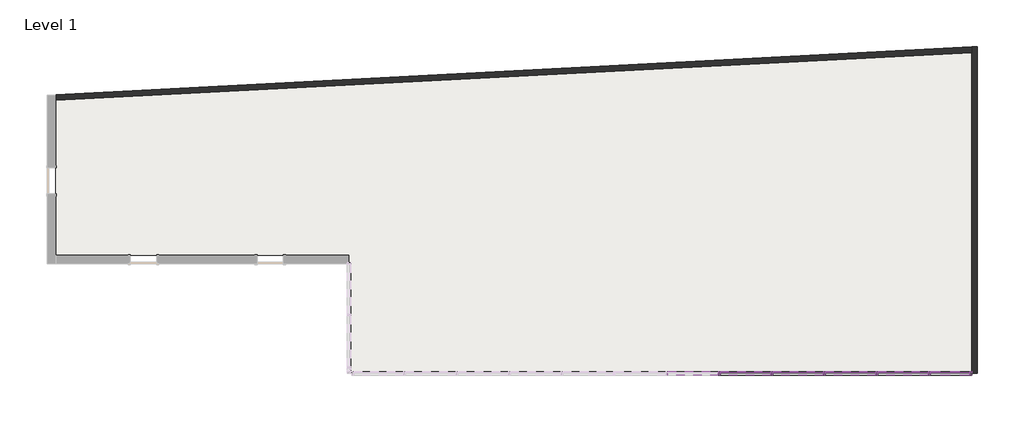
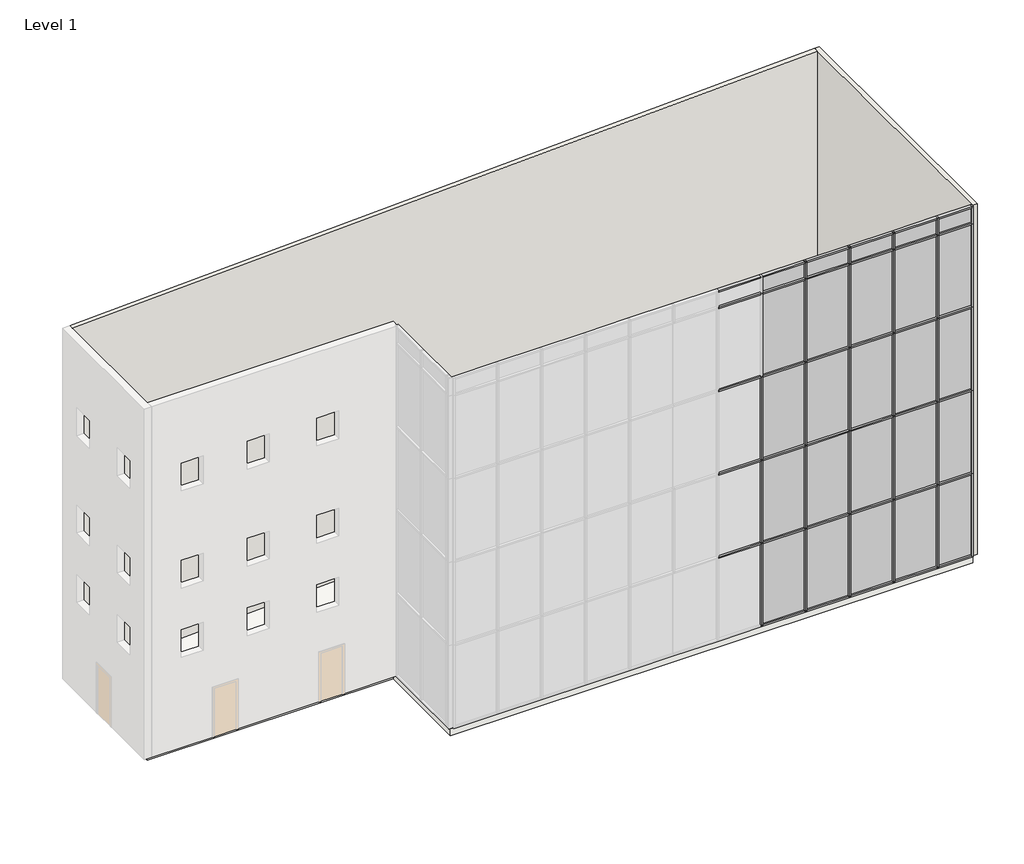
# One storey, part 3 of 3: 63 members, 25 plates, 2 walls, 1 slab.
"""IFC4 building model written with IfcOpenShell, lengths in millimetres."""

from ifc_helpers import new_model, si_unit, frame, origin, origin_with_axes, place, context, project, spatial, polyline, outline, extrude, faceted_brep, transform, mapped, element, save
from components import member_810865a4, member_61742b2b, member_79cc3911, member_6d5c3e5e, member_4dc7c44e, member_9764dd38, member_4d31274b, member_aa870034, system_panel_glazed_7e716341, system_panel_glazed_c99a592d, system_panel_glazed_7e07fde3, system_panel_glazed_e4cb9f9a, system_panel_glazed_a6232784, system_panel_glazed_e82ad010

model = new_model("IFC4")

# Units and contexts
model_context = context("Model", 3, world=origin())
ifc_project = project(units=[si_unit("LENGTHUNIT", "METRE", prefix="MILLI")], contexts=[model_context])

# Site, building, storey
site = spatial("IfcSite", under=ifc_project)
building = spatial("IfcBuilding", under=site)
storey = spatial("IfcBuildingStorey", under=building, Name="Level 1", Elevation=0.0)

# Members
placement = place(None, origin())
member_shape = member_810865a4(model_context)
element("IfcMember", 1, ObjectType="Rectangular Mullion : 2.5\" x 5\" rectangular", at=placement, inside=storey, context=model_context, shape_type="MappedRepresentation", body=[
    mapped(member_shape, transform((13534.6188959, 4686.3138106, 0.0), x_axis=(1.0, 0.0, 0.0), y_axis=(0.0, -1.0, 0.0), z_axis=(0.0, 0.0, -1.0))),
])
element("IfcMember", 2, ObjectType="Rectangular Mullion : 2.5\" x 5\" rectangular", at=placement, inside=storey, context=model_context, shape_type="MappedRepresentation", body=[
    mapped(member_shape, transform((11705.8188959, 4686.3138106, 0.0), x_axis=(1.0, 0.0, 0.0), y_axis=(0.0, -1.0, 0.0), z_axis=(0.0, 0.0, -1.0))),
])
element("IfcMember", 3, ObjectType="Rectangular Mullion : 2.5\" x 5\" rectangular", at=placement, inside=storey, context=model_context, shape_type="MappedRepresentation", body=[
    mapped(member_shape, transform((17192.2188959, 4686.3138106, 0.0), x_axis=(1.0, 0.0, 0.0), y_axis=(0.0, -1.0, 0.0), z_axis=(0.0, 0.0, -1.0))),
])
element("IfcMember", 4, ObjectType="Rectangular Mullion : 2.5\" x 5\" rectangular", at=placement, inside=storey, context=model_context, shape_type="MappedRepresentation", body=[
    mapped(member_shape, transform((15363.4188959, 4686.3138106, 0.0), x_axis=(1.0, 0.0, 0.0), y_axis=(0.0, -1.0, 0.0), z_axis=(0.0, 0.0, -1.0))),
])
element("IfcMember", 5, ObjectType="Rectangular Mullion : 2.5\" x 5\" rectangular", at=placement, inside=storey, context=model_context, shape_type="MappedRepresentation", body=[
    mapped(member_shape, transform((19021.0188959, 4686.3138106, 0.0), x_axis=(1.0, 0.0, 0.0), y_axis=(0.0, -1.0, 0.0), z_axis=(0.0, 0.0, -1.0))),
])
member_2_shape = member_61742b2b(model_context)
element("IfcMember", 6, ObjectType="Rectangular Mullion : 2.5\" x 5\" rectangular", at=placement, inside=storey, context=model_context, shape_type="MappedRepresentation", body=[
    mapped(member_2_shape, transform((15363.4188959, 4686.3138106, 14630.4), x_axis=(1.0, 0.0, 0.0), y_axis=(0.0, -1.0, 0.0), z_axis=(0.0, 0.0, -1.0))),
])
element("IfcMember", 7, ObjectType="Rectangular Mullion : 2.5\" x 5\" rectangular", at=placement, inside=storey, context=model_context, shape_type="MappedRepresentation", body=[
    mapped(member_2_shape, transform((13534.6188959, 4686.3138106, 14630.4), x_axis=(1.0, 0.0, 0.0), y_axis=(0.0, -1.0, 0.0), z_axis=(0.0, 0.0, -1.0))),
])
element("IfcMember", 8, ObjectType="Rectangular Mullion : 2.5\" x 5\" rectangular", at=placement, inside=storey, context=model_context, shape_type="MappedRepresentation", body=[
    mapped(member_2_shape, transform((19021.0188959, 4686.3138106, 14630.4), x_axis=(1.0, 0.0, 0.0), y_axis=(0.0, -1.0, 0.0), z_axis=(0.0, 0.0, -1.0))),
])
element("IfcMember", 9, ObjectType="Rectangular Mullion : 2.5\" x 5\" rectangular", at=placement, inside=storey, context=model_context, shape_type="MappedRepresentation", body=[
    mapped(member_2_shape, transform((17192.2188959, 4686.3138106, 14630.4), x_axis=(1.0, 0.0, 0.0), y_axis=(0.0, -1.0, 0.0), z_axis=(0.0, 0.0, -1.0))),
])
element("IfcMember", 10, ObjectType="Rectangular Mullion : 2.5\" x 5\" rectangular", at=placement, inside=storey, context=model_context, shape_type="MappedRepresentation", body=[
    mapped(member_shape, transform((17192.2188959, 4686.3138106, 3657.6), x_axis=(1.0, 0.0, 0.0), y_axis=(0.0, -1.0, 0.0), z_axis=(0.0, 0.0, -1.0))),
])
element("IfcMember", 11, ObjectType="Rectangular Mullion : 2.5\" x 5\" rectangular", at=placement, inside=storey, context=model_context, shape_type="MappedRepresentation", body=[
    mapped(member_shape, transform((15363.4188959, 4686.3138106, 10972.8), x_axis=(1.0, 0.0, 0.0), y_axis=(0.0, -1.0, 0.0), z_axis=(0.0, 0.0, -1.0))),
])
element("IfcMember", 12, ObjectType="Rectangular Mullion : 2.5\" x 5\" rectangular", at=placement, inside=storey, context=model_context, shape_type="MappedRepresentation", body=[
    mapped(member_shape, transform((15363.4188959, 4686.3138106, 7315.2), x_axis=(1.0, 0.0, 0.0), y_axis=(0.0, -1.0, 0.0), z_axis=(0.0, 0.0, -1.0))),
])
element("IfcMember", 13, ObjectType="Rectangular Mullion : 2.5\" x 5\" rectangular", at=placement, inside=storey, context=model_context, shape_type="MappedRepresentation", body=[
    mapped(member_shape, transform((15363.4188959, 4686.3138106, 3657.6), x_axis=(1.0, 0.0, 0.0), y_axis=(0.0, -1.0, 0.0), z_axis=(0.0, 0.0, -1.0))),
])
element("IfcMember", 14, ObjectType="Rectangular Mullion : 2.5\" x 5\" rectangular", at=placement, inside=storey, context=model_context, shape_type="MappedRepresentation", body=[
    mapped(member_shape, transform((13534.6188959, 4686.3138106, 10972.8), x_axis=(1.0, 0.0, 0.0), y_axis=(0.0, -1.0, 0.0), z_axis=(0.0, 0.0, -1.0))),
])
element("IfcMember", 15, ObjectType="Rectangular Mullion : 2.5\" x 5\" rectangular", at=placement, inside=storey, context=model_context, shape_type="MappedRepresentation", body=[
    mapped(member_shape, transform((13534.6188959, 4686.3138106, 7315.2), x_axis=(1.0, 0.0, 0.0), y_axis=(0.0, -1.0, 0.0), z_axis=(0.0, 0.0, -1.0))),
])
element("IfcMember", 16, ObjectType="Rectangular Mullion : 2.5\" x 5\" rectangular", at=placement, inside=storey, context=model_context, shape_type="MappedRepresentation", body=[
    mapped(member_shape, transform((13534.6188959, 4686.3138106, 3657.6), x_axis=(1.0, 0.0, 0.0), y_axis=(0.0, -1.0, 0.0), z_axis=(0.0, 0.0, -1.0))),
])
element("IfcMember", 17, ObjectType="Rectangular Mullion : 2.5\" x 5\" rectangular", at=placement, inside=storey, context=model_context, shape_type="MappedRepresentation", body=[
    mapped(member_shape, transform((11705.8188959, 4686.3138106, 7315.2), x_axis=(1.0, 0.0, 0.0), y_axis=(0.0, -1.0, 0.0), z_axis=(0.0, 0.0, -1.0))),
])
element("IfcMember", 18, ObjectType="Rectangular Mullion : 2.5\" x 5\" rectangular", at=placement, inside=storey, context=model_context, shape_type="MappedRepresentation", body=[
    mapped(member_shape, transform((11705.8188959, 4686.3138106, 3657.6), x_axis=(1.0, 0.0, 0.0), y_axis=(0.0, -1.0, 0.0), z_axis=(0.0, 0.0, -1.0))),
])
element("IfcMember", 19, ObjectType="Rectangular Mullion : 2.5\" x 5\" rectangular", at=placement, inside=storey, context=model_context, shape_type="MappedRepresentation", body=[
    mapped(member_shape, transform((19021.0188959, 4686.3138106, 10972.8), x_axis=(1.0, 0.0, 0.0), y_axis=(0.0, -1.0, 0.0), z_axis=(0.0, 0.0, -1.0))),
])
element("IfcMember", 20, ObjectType="Rectangular Mullion : 2.5\" x 5\" rectangular", at=placement, inside=storey, context=model_context, shape_type="MappedRepresentation", body=[
    mapped(member_shape, transform((19021.0188959, 4686.3138106, 7315.2), x_axis=(1.0, 0.0, 0.0), y_axis=(0.0, -1.0, 0.0), z_axis=(0.0, 0.0, -1.0))),
])
element("IfcMember", 21, ObjectType="Rectangular Mullion : 2.5\" x 5\" rectangular", at=placement, inside=storey, context=model_context, shape_type="MappedRepresentation", body=[
    mapped(member_shape, transform((19021.0188959, 4686.3138106, 3657.6), x_axis=(1.0, 0.0, 0.0), y_axis=(0.0, -1.0, 0.0), z_axis=(0.0, 0.0, -1.0))),
])
element("IfcMember", 22, ObjectType="Rectangular Mullion : 2.5\" x 5\" rectangular", at=placement, inside=storey, context=model_context, shape_type="MappedRepresentation", body=[
    mapped(member_shape, transform((17192.2188959, 4686.3138106, 10972.8), x_axis=(1.0, 0.0, 0.0), y_axis=(0.0, -1.0, 0.0), z_axis=(0.0, 0.0, -1.0))),
])
element("IfcMember", 23, ObjectType="Rectangular Mullion : 2.5\" x 5\" rectangular", at=placement, inside=storey, context=model_context, shape_type="MappedRepresentation", body=[
    mapped(member_shape, transform((17192.2188959, 4686.3138106, 7315.2), x_axis=(1.0, 0.0, 0.0), y_axis=(0.0, -1.0, 0.0), z_axis=(0.0, 0.0, -1.0))),
])
member_3_shape = member_79cc3911(model_context)
element("IfcMember", 24, ObjectType="Rectangular Mullion : 2.5\" x 5\" rectangular", at=placement, inside=storey, context=model_context, shape_type="MappedRepresentation", body=[
    mapped(member_3_shape, transform((20430.7188959, 4686.3138106, 15392.4), x_axis=(0.0, 0.0, 1.0), y_axis=(0.0, -1.0, 0.0), z_axis=(1.0, 0.0, 0.0))),
])
member_4_shape = member_6d5c3e5e(model_context)
element("IfcMember", 25, ObjectType="Rectangular Mullion : 2.5\" x 5\" rectangular", at=placement, inside=storey, context=model_context, shape_type="MappedRepresentation", body=[
    mapped(member_4_shape, transform((18989.2688959, 4686.3138106, 15392.4), x_axis=(0.0, 0.0, 1.0), y_axis=(0.0, -1.0, 0.0), z_axis=(1.0, 0.0, 0.0))),
])
element("IfcMember", 26, ObjectType="Rectangular Mullion : 2.5\" x 5\" rectangular", at=placement, inside=storey, context=model_context, shape_type="MappedRepresentation", body=[
    mapped(member_4_shape, transform((17160.4688959, 4686.3138106, 15392.4), x_axis=(0.0, 0.0, 1.0), y_axis=(0.0, -1.0, 0.0), z_axis=(1.0, 0.0, 0.0))),
])
element("IfcMember", 27, ObjectType="Rectangular Mullion : 2.5\" x 5\" rectangular", at=placement, inside=storey, context=model_context, shape_type="MappedRepresentation", body=[
    mapped(member_4_shape, transform((15331.6688959, 4686.3138106, 15392.4), x_axis=(0.0, 0.0, 1.0), y_axis=(0.0, -1.0, 0.0), z_axis=(1.0, 0.0, 0.0))),
])
element("IfcMember", 28, ObjectType="Rectangular Mullion : 2.5\" x 5\" rectangular", at=placement, inside=storey, context=model_context, shape_type="MappedRepresentation", body=[
    mapped(member_4_shape, transform((13502.8688959, 4686.3138106, 15392.4), x_axis=(0.0, 0.0, 1.0), y_axis=(0.0, -1.0, 0.0), z_axis=(1.0, 0.0, 0.0))),
])
element("IfcMember", 29, ObjectType="Rectangular Mullion : 2.5\" x 5\" rectangular", at=placement, inside=storey, context=model_context, shape_type="MappedRepresentation", body=[
    mapped(member_4_shape, transform((11674.0688959, 4686.3138106, 15392.4), x_axis=(0.0, 0.0, 1.0), y_axis=(0.0, -1.0, 0.0), z_axis=(1.0, 0.0, 0.0))),
])
element("IfcMember", 30, ObjectType="Rectangular Mullion : 2.5\" x 5\" rectangular", at=placement, inside=storey, context=model_context, shape_type="MappedRepresentation", body=[
    mapped(member_3_shape, transform((19052.7688959, 4686.3138106, 0.0), x_axis=(0.0, 0.0, -1.0), y_axis=(0.0, -1.0, 0.0), z_axis=(-1.0, 0.0, 0.0))),
])
element("IfcMember", 31, ObjectType="Rectangular Mullion : 2.5\" x 5\" rectangular", at=placement, inside=storey, context=model_context, shape_type="MappedRepresentation", body=[
    mapped(member_4_shape, transform((17223.9688959, 4686.3138106, 0.0), x_axis=(0.0, 0.0, -1.0), y_axis=(0.0, -1.0, 0.0), z_axis=(-1.0, 0.0, 0.0))),
])
element("IfcMember", 32, ObjectType="Rectangular Mullion : 2.5\" x 5\" rectangular", at=placement, inside=storey, context=model_context, shape_type="MappedRepresentation", body=[
    mapped(member_4_shape, transform((15395.1688959, 4686.3138106, 0.0), x_axis=(0.0, 0.0, -1.0), y_axis=(0.0, -1.0, 0.0), z_axis=(-1.0, 0.0, 0.0))),
])
element("IfcMember", 33, ObjectType="Rectangular Mullion : 2.5\" x 5\" rectangular", at=placement, inside=storey, context=model_context, shape_type="MappedRepresentation", body=[
    mapped(member_4_shape, transform((13566.3688959, 4686.3138106, 0.0), x_axis=(0.0, 0.0, -1.0), y_axis=(0.0, -1.0, 0.0), z_axis=(-1.0, 0.0, 0.0))),
])
element("IfcMember", 34, ObjectType="Rectangular Mullion : 2.5\" x 5\" rectangular", at=placement, inside=storey, context=model_context, shape_type="MappedRepresentation", body=[
    mapped(member_4_shape, transform((11737.5688959, 4686.3138106, 0.0), x_axis=(0.0, 0.0, -1.0), y_axis=(0.0, -1.0, 0.0), z_axis=(-1.0, 0.0, 0.0))),
])
member_5_shape = member_4dc7c44e(model_context)
element("IfcMember", 35, ObjectType="Rectangular Mullion : 2.5\" x 5\" rectangular", at=placement, inside=storey, context=model_context, shape_type="MappedRepresentation", body=[
    mapped(member_5_shape, transform((20430.7188959, 4686.3138106, 14630.4), x_axis=(0.0, 0.0, 1.0), y_axis=(0.0, -1.0, 0.0), z_axis=(1.0, 0.0, 0.0))),
])
element("IfcMember", 36, ObjectType="Rectangular Mullion : 2.5\" x 5\" rectangular", at=placement, inside=storey, context=model_context, shape_type="MappedRepresentation", body=[
    mapped(member_5_shape, transform((20430.7188959, 4686.3138106, 10972.8), x_axis=(0.0, 0.0, 1.0), y_axis=(0.0, -1.0, 0.0), z_axis=(1.0, 0.0, 0.0))),
])
element("IfcMember", 37, ObjectType="Rectangular Mullion : 2.5\" x 5\" rectangular", at=placement, inside=storey, context=model_context, shape_type="MappedRepresentation", body=[
    mapped(member_5_shape, transform((20430.7188959, 4686.3138106, 7315.2), x_axis=(0.0, 0.0, 1.0), y_axis=(0.0, -1.0, 0.0), z_axis=(1.0, 0.0, 0.0))),
])
element("IfcMember", 38, ObjectType="Rectangular Mullion : 2.5\" x 5\" rectangular", at=placement, inside=storey, context=model_context, shape_type="MappedRepresentation", body=[
    mapped(member_5_shape, transform((20430.7188959, 4686.3138106, 3657.6), x_axis=(0.0, 0.0, 1.0), y_axis=(0.0, -1.0, 0.0), z_axis=(1.0, 0.0, 0.0))),
])
member_6_shape = member_9764dd38(model_context)
element("IfcMember", 39, ObjectType="Rectangular Mullion : 2.5\" x 5\" rectangular", at=placement, inside=storey, context=model_context, shape_type="MappedRepresentation", body=[
    mapped(member_6_shape, transform((18989.2688959, 4686.3138106, 14630.4), x_axis=(0.0, 0.0, 1.0), y_axis=(0.0, -1.0, 0.0), z_axis=(1.0, 0.0, 0.0))),
])
element("IfcMember", 40, ObjectType="Rectangular Mullion : 2.5\" x 5\" rectangular", at=placement, inside=storey, context=model_context, shape_type="MappedRepresentation", body=[
    mapped(member_6_shape, transform((17160.4688959, 4686.3138106, 14630.4), x_axis=(0.0, 0.0, 1.0), y_axis=(0.0, -1.0, 0.0), z_axis=(1.0, 0.0, 0.0))),
])
element("IfcMember", 41, ObjectType="Rectangular Mullion : 2.5\" x 5\" rectangular", at=placement, inside=storey, context=model_context, shape_type="MappedRepresentation", body=[
    mapped(member_6_shape, transform((15331.6688959, 4686.3138106, 14630.4), x_axis=(0.0, 0.0, 1.0), y_axis=(0.0, -1.0, 0.0), z_axis=(1.0, 0.0, 0.0))),
])
element("IfcMember", 42, ObjectType="Rectangular Mullion : 2.5\" x 5\" rectangular", at=placement, inside=storey, context=model_context, shape_type="MappedRepresentation", body=[
    mapped(member_6_shape, transform((13502.8688959, 4686.3138106, 14630.4), x_axis=(0.0, 0.0, 1.0), y_axis=(0.0, -1.0, 0.0), z_axis=(1.0, 0.0, 0.0))),
])
element("IfcMember", 43, ObjectType="Rectangular Mullion : 2.5\" x 5\" rectangular", at=placement, inside=storey, context=model_context, shape_type="MappedRepresentation", body=[
    mapped(member_6_shape, transform((11674.0688959, 4686.3138106, 14630.4), x_axis=(0.0, 0.0, 1.0), y_axis=(0.0, -1.0, 0.0), z_axis=(1.0, 0.0, 0.0))),
])
element("IfcMember", 44, ObjectType="Rectangular Mullion : 2.5\" x 5\" rectangular", at=placement, inside=storey, context=model_context, shape_type="MappedRepresentation", body=[
    mapped(member_6_shape, transform((18989.2688959, 4686.3138106, 10972.8), x_axis=(0.0, 0.0, 1.0), y_axis=(0.0, -1.0, 0.0), z_axis=(1.0, 0.0, 0.0))),
])
element("IfcMember", 45, ObjectType="Rectangular Mullion : 2.5\" x 5\" rectangular", at=placement, inside=storey, context=model_context, shape_type="MappedRepresentation", body=[
    mapped(member_6_shape, transform((17160.4688959, 4686.3138106, 10972.8), x_axis=(0.0, 0.0, 1.0), y_axis=(0.0, -1.0, 0.0), z_axis=(1.0, 0.0, 0.0))),
])
element("IfcMember", 46, ObjectType="Rectangular Mullion : 2.5\" x 5\" rectangular", at=placement, inside=storey, context=model_context, shape_type="MappedRepresentation", body=[
    mapped(member_6_shape, transform((15331.6688959, 4686.3138106, 10972.8), x_axis=(0.0, 0.0, 1.0), y_axis=(0.0, -1.0, 0.0), z_axis=(1.0, 0.0, 0.0))),
])
element("IfcMember", 47, ObjectType="Rectangular Mullion : 2.5\" x 5\" rectangular", at=placement, inside=storey, context=model_context, shape_type="MappedRepresentation", body=[
    mapped(member_6_shape, transform((13502.8688959, 4686.3138106, 10972.8), x_axis=(0.0, 0.0, 1.0), y_axis=(0.0, -1.0, 0.0), z_axis=(1.0, 0.0, 0.0))),
])
element("IfcMember", 48, ObjectType="Rectangular Mullion : 2.5\" x 5\" rectangular", at=placement, inside=storey, context=model_context, shape_type="MappedRepresentation", body=[
    mapped(member_6_shape, transform((11674.0688959, 4686.3138106, 10972.8), x_axis=(0.0, 0.0, 1.0), y_axis=(0.0, -1.0, 0.0), z_axis=(1.0, 0.0, 0.0))),
])
element("IfcMember", 49, ObjectType="Rectangular Mullion : 2.5\" x 5\" rectangular", at=placement, inside=storey, context=model_context, shape_type="MappedRepresentation", body=[
    mapped(member_6_shape, transform((18989.2688959, 4686.3138106, 7315.2), x_axis=(0.0, 0.0, 1.0), y_axis=(0.0, -1.0, 0.0), z_axis=(1.0, 0.0, 0.0))),
])
element("IfcMember", 50, ObjectType="Rectangular Mullion : 2.5\" x 5\" rectangular", at=placement, inside=storey, context=model_context, shape_type="MappedRepresentation", body=[
    mapped(member_6_shape, transform((17160.4688959, 4686.3138106, 7315.2), x_axis=(0.0, 0.0, 1.0), y_axis=(0.0, -1.0, 0.0), z_axis=(1.0, 0.0, 0.0))),
])
element("IfcMember", 51, ObjectType="Rectangular Mullion : 2.5\" x 5\" rectangular", at=placement, inside=storey, context=model_context, shape_type="MappedRepresentation", body=[
    mapped(member_6_shape, transform((15331.6688959, 4686.3138106, 7315.2), x_axis=(0.0, 0.0, 1.0), y_axis=(0.0, -1.0, 0.0), z_axis=(1.0, 0.0, 0.0))),
])
element("IfcMember", 52, ObjectType="Rectangular Mullion : 2.5\" x 5\" rectangular", at=placement, inside=storey, context=model_context, shape_type="MappedRepresentation", body=[
    mapped(member_6_shape, transform((13502.8688959, 4686.3138106, 7315.2), x_axis=(0.0, 0.0, 1.0), y_axis=(0.0, -1.0, 0.0), z_axis=(1.0, 0.0, 0.0))),
])
element("IfcMember", 53, ObjectType="Rectangular Mullion : 2.5\" x 5\" rectangular", at=placement, inside=storey, context=model_context, shape_type="MappedRepresentation", body=[
    mapped(member_6_shape, transform((11674.0688959, 4686.3138106, 7315.2), x_axis=(0.0, 0.0, 1.0), y_axis=(0.0, -1.0, 0.0), z_axis=(1.0, 0.0, 0.0))),
])
element("IfcMember", 54, ObjectType="Rectangular Mullion : 2.5\" x 5\" rectangular", at=placement, inside=storey, context=model_context, shape_type="MappedRepresentation", body=[
    mapped(member_6_shape, transform((18989.2688959, 4686.3138106, 3657.6), x_axis=(0.0, 0.0, 1.0), y_axis=(0.0, -1.0, 0.0), z_axis=(1.0, 0.0, 0.0))),
])
element("IfcMember", 55, ObjectType="Rectangular Mullion : 2.5\" x 5\" rectangular", at=placement, inside=storey, context=model_context, shape_type="MappedRepresentation", body=[
    mapped(member_6_shape, transform((17160.4688959, 4686.3138106, 3657.6), x_axis=(0.0, 0.0, 1.0), y_axis=(0.0, -1.0, 0.0), z_axis=(1.0, 0.0, 0.0))),
])
element("IfcMember", 56, ObjectType="Rectangular Mullion : 2.5\" x 5\" rectangular", at=placement, inside=storey, context=model_context, shape_type="MappedRepresentation", body=[
    mapped(member_6_shape, transform((15331.6688959, 4686.3138106, 3657.6), x_axis=(0.0, 0.0, 1.0), y_axis=(0.0, -1.0, 0.0), z_axis=(1.0, 0.0, 0.0))),
])
element("IfcMember", 57, ObjectType="Rectangular Mullion : 2.5\" x 5\" rectangular", at=placement, inside=storey, context=model_context, shape_type="MappedRepresentation", body=[
    mapped(member_6_shape, transform((13502.8688959, 4686.3138106, 3657.6), x_axis=(0.0, 0.0, 1.0), y_axis=(0.0, -1.0, 0.0), z_axis=(1.0, 0.0, 0.0))),
])
element("IfcMember", 58, ObjectType="Rectangular Mullion : 2.5\" x 5\" rectangular", at=placement, inside=storey, context=model_context, shape_type="MappedRepresentation", body=[
    mapped(member_6_shape, transform((11674.0688959, 4686.3138106, 3657.6), x_axis=(0.0, 0.0, 1.0), y_axis=(0.0, -1.0, 0.0), z_axis=(1.0, 0.0, 0.0))),
])
member_7_shape = member_4d31274b(model_context)
element("IfcMember", 59, ObjectType="Rectangular Mullion : 2.5\" x 5\" rectangular", at=placement, inside=storey, context=model_context, shape_type="MappedRepresentation", body=[
    mapped(member_7_shape, transform((20494.2188959, 4686.3138106, 0.0), x_axis=(1.0, 0.0, 0.0), y_axis=(0.0, -1.0, 0.0), z_axis=(0.0, 0.0, -1.0))),
])
member_8_shape = member_aa870034(model_context)
element("IfcMember", 60, ObjectType="Rectangular Mullion : 2.5\" x 5\" rectangular", at=placement, inside=storey, context=model_context, shape_type="MappedRepresentation", body=[
    mapped(member_8_shape, transform((20494.2188959, 4686.3138106, 14630.4), x_axis=(1.0, 0.0, 0.0), y_axis=(0.0, -1.0, 0.0), z_axis=(0.0, 0.0, -1.0))),
])
element("IfcMember", 61, ObjectType="Rectangular Mullion : 2.5\" x 5\" rectangular", at=placement, inside=storey, context=model_context, shape_type="MappedRepresentation", body=[
    mapped(member_7_shape, transform((20494.2188959, 4686.3138106, 10972.8), x_axis=(1.0, 0.0, 0.0), y_axis=(0.0, -1.0, 0.0), z_axis=(0.0, 0.0, -1.0))),
])
element("IfcMember", 62, ObjectType="Rectangular Mullion : 2.5\" x 5\" rectangular", at=placement, inside=storey, context=model_context, shape_type="MappedRepresentation", body=[
    mapped(member_7_shape, transform((20494.2188959, 4686.3138106, 7315.2), x_axis=(1.0, 0.0, 0.0), y_axis=(0.0, -1.0, 0.0), z_axis=(0.0, 0.0, -1.0))),
])
element("IfcMember", 63, ObjectType="Rectangular Mullion : 2.5\" x 5\" rectangular", at=placement, inside=storey, context=model_context, shape_type="MappedRepresentation", body=[
    mapped(member_7_shape, transform((20494.2188959, 4686.3138106, 3657.6), x_axis=(1.0, 0.0, 0.0), y_axis=(0.0, -1.0, 0.0), z_axis=(0.0, 0.0, -1.0))),
])

# Plates
system_panel_glazed_shape = system_panel_glazed_7e716341(model_context)
element("IfcPlate", 64, ObjectType="System Panel : Glazed", at=placement, inside=storey, context=model_context, shape_type="MappedRepresentation", body=[
    mapped(system_panel_glazed_shape, transform((12620.2188959, 4686.3138106, 63.5), x_axis=(1.0, 0.0, 0.0), y_axis=(0.0, 1.0, 0.0), z_axis=(0.0, 0.0, 1.0))),
])
element("IfcPlate", 65, ObjectType="System Panel : Glazed", at=placement, inside=storey, context=model_context, shape_type="MappedRepresentation", body=[
    mapped(system_panel_glazed_shape, transform((14449.0188959, 4686.3138106, 63.5), x_axis=(1.0, 0.0, 0.0), y_axis=(0.0, 1.0, 0.0), z_axis=(0.0, 0.0, 1.0))),
])
element("IfcPlate", 66, ObjectType="System Panel : Glazed", at=placement, inside=storey, context=model_context, shape_type="MappedRepresentation", body=[
    mapped(system_panel_glazed_shape, transform((16277.8188959, 4686.3138106, 63.5), x_axis=(1.0, 0.0, 0.0), y_axis=(0.0, 1.0, 0.0), z_axis=(0.0, 0.0, 1.0))),
])
element("IfcPlate", 67, ObjectType="System Panel : Glazed", at=placement, inside=storey, context=model_context, shape_type="MappedRepresentation", body=[
    mapped(system_panel_glazed_shape, transform((18106.6188959, 4686.3138106, 63.5), x_axis=(1.0, 0.0, 0.0), y_axis=(0.0, 1.0, 0.0), z_axis=(0.0, 0.0, 1.0))),
])
system_panel_glazed_2_shape = system_panel_glazed_c99a592d(model_context)
element("IfcPlate", 68, ObjectType="System Panel : Glazed", at=placement, inside=storey, context=model_context, shape_type="MappedRepresentation", body=[
    mapped(system_panel_glazed_2_shape, transform((19741.7438959, 4686.3138106, 63.5), x_axis=(1.0, 0.0, 0.0), y_axis=(0.0, 1.0, 0.0), z_axis=(0.0, 0.0, 1.0))),
])
system_panel_glazed_3_shape = system_panel_glazed_7e07fde3(model_context)
element("IfcPlate", 69, ObjectType="System Panel : Glazed", at=placement, inside=storey, context=model_context, shape_type="MappedRepresentation", body=[
    mapped(system_panel_glazed_3_shape, transform((12620.2188959, 4686.3138106, 3689.35), x_axis=(1.0, 0.0, 0.0), y_axis=(0.0, 1.0, 0.0), z_axis=(0.0, 0.0, 1.0))),
])
element("IfcPlate", 70, ObjectType="System Panel : Glazed", at=placement, inside=storey, context=model_context, shape_type="MappedRepresentation", body=[
    mapped(system_panel_glazed_3_shape, transform((14449.0188959, 4686.3138106, 3689.35), x_axis=(1.0, 0.0, 0.0), y_axis=(0.0, 1.0, 0.0), z_axis=(0.0, 0.0, 1.0))),
])
element("IfcPlate", 71, ObjectType="System Panel : Glazed", at=placement, inside=storey, context=model_context, shape_type="MappedRepresentation", body=[
    mapped(system_panel_glazed_3_shape, transform((16277.8188959, 4686.3138106, 3689.35), x_axis=(1.0, 0.0, 0.0), y_axis=(0.0, 1.0, 0.0), z_axis=(0.0, 0.0, 1.0))),
])
element("IfcPlate", 72, ObjectType="System Panel : Glazed", at=placement, inside=storey, context=model_context, shape_type="MappedRepresentation", body=[
    mapped(system_panel_glazed_3_shape, transform((18106.6188959, 4686.3138106, 3689.35), x_axis=(1.0, 0.0, 0.0), y_axis=(0.0, 1.0, 0.0), z_axis=(0.0, 0.0, 1.0))),
])
element("IfcPlate", 73, ObjectType="System Panel : Glazed", at=placement, inside=storey, context=model_context, shape_type="MappedRepresentation", body=[
    mapped(system_panel_glazed_3_shape, transform((12620.2188959, 4686.3138106, 7346.95), x_axis=(1.0, 0.0, 0.0), y_axis=(0.0, 1.0, 0.0), z_axis=(0.0, 0.0, 1.0))),
])
element("IfcPlate", 74, ObjectType="System Panel : Glazed", at=placement, inside=storey, context=model_context, shape_type="MappedRepresentation", body=[
    mapped(system_panel_glazed_3_shape, transform((14449.0188959, 4686.3138106, 7346.95), x_axis=(1.0, 0.0, 0.0), y_axis=(0.0, 1.0, 0.0), z_axis=(0.0, 0.0, 1.0))),
])
element("IfcPlate", 75, ObjectType="System Panel : Glazed", at=placement, inside=storey, context=model_context, shape_type="MappedRepresentation", body=[
    mapped(system_panel_glazed_3_shape, transform((16277.8188959, 4686.3138106, 7346.95), x_axis=(1.0, 0.0, 0.0), y_axis=(0.0, 1.0, 0.0), z_axis=(0.0, 0.0, 1.0))),
])
element("IfcPlate", 76, ObjectType="System Panel : Glazed", at=placement, inside=storey, context=model_context, shape_type="MappedRepresentation", body=[
    mapped(system_panel_glazed_3_shape, transform((18106.6188959, 4686.3138106, 7346.95), x_axis=(1.0, 0.0, 0.0), y_axis=(0.0, 1.0, 0.0), z_axis=(0.0, 0.0, 1.0))),
])
element("IfcPlate", 77, ObjectType="System Panel : Glazed", at=placement, inside=storey, context=model_context, shape_type="MappedRepresentation", body=[
    mapped(system_panel_glazed_3_shape, transform((12620.2188959, 4686.3138106, 11004.55), x_axis=(1.0, 0.0, 0.0), y_axis=(0.0, 1.0, 0.0), z_axis=(0.0, 0.0, 1.0))),
])
element("IfcPlate", 78, ObjectType="System Panel : Glazed", at=placement, inside=storey, context=model_context, shape_type="MappedRepresentation", body=[
    mapped(system_panel_glazed_3_shape, transform((14449.0188959, 4686.3138106, 11004.55), x_axis=(1.0, 0.0, 0.0), y_axis=(0.0, 1.0, 0.0), z_axis=(0.0, 0.0, 1.0))),
])
element("IfcPlate", 79, ObjectType="System Panel : Glazed", at=placement, inside=storey, context=model_context, shape_type="MappedRepresentation", body=[
    mapped(system_panel_glazed_3_shape, transform((16277.8188959, 4686.3138106, 11004.55), x_axis=(1.0, 0.0, 0.0), y_axis=(0.0, 1.0, 0.0), z_axis=(0.0, 0.0, 1.0))),
])
element("IfcPlate", 80, ObjectType="System Panel : Glazed", at=placement, inside=storey, context=model_context, shape_type="MappedRepresentation", body=[
    mapped(system_panel_glazed_3_shape, transform((18106.6188959, 4686.3138106, 11004.55), x_axis=(1.0, 0.0, 0.0), y_axis=(0.0, 1.0, 0.0), z_axis=(0.0, 0.0, 1.0))),
])
system_panel_glazed_4_shape = system_panel_glazed_e4cb9f9a(model_context)
element("IfcPlate", 81, ObjectType="System Panel : Glazed", at=placement, inside=storey, context=model_context, shape_type="MappedRepresentation", body=[
    mapped(system_panel_glazed_4_shape, transform((19741.7438959, 4686.3138106, 3689.35), x_axis=(1.0, 0.0, 0.0), y_axis=(0.0, 1.0, 0.0), z_axis=(0.0, 0.0, 1.0))),
])
element("IfcPlate", 82, ObjectType="System Panel : Glazed", at=placement, inside=storey, context=model_context, shape_type="MappedRepresentation", body=[
    mapped(system_panel_glazed_4_shape, transform((19741.7438959, 4686.3138106, 7346.95), x_axis=(1.0, 0.0, 0.0), y_axis=(0.0, 1.0, 0.0), z_axis=(0.0, 0.0, 1.0))),
])
element("IfcPlate", 83, ObjectType="System Panel : Glazed", at=placement, inside=storey, context=model_context, shape_type="MappedRepresentation", body=[
    mapped(system_panel_glazed_4_shape, transform((19741.7438959, 4686.3138106, 11004.55), x_axis=(1.0, 0.0, 0.0), y_axis=(0.0, 1.0, 0.0), z_axis=(0.0, 0.0, 1.0))),
])
system_panel_glazed_5_shape = system_panel_glazed_a6232784(model_context)
element("IfcPlate", 84, ObjectType="System Panel : Glazed", at=placement, inside=storey, context=model_context, shape_type="MappedRepresentation", body=[
    mapped(system_panel_glazed_5_shape, transform((12620.2188959, 4686.3138106, 14662.15), x_axis=(1.0, 0.0, 0.0), y_axis=(0.0, 1.0, 0.0), z_axis=(0.0, 0.0, 1.0))),
])
element("IfcPlate", 85, ObjectType="System Panel : Glazed", at=placement, inside=storey, context=model_context, shape_type="MappedRepresentation", body=[
    mapped(system_panel_glazed_5_shape, transform((14449.0188959, 4686.3138106, 14662.15), x_axis=(1.0, 0.0, 0.0), y_axis=(0.0, 1.0, 0.0), z_axis=(0.0, 0.0, 1.0))),
])
element("IfcPlate", 86, ObjectType="System Panel : Glazed", at=placement, inside=storey, context=model_context, shape_type="MappedRepresentation", body=[
    mapped(system_panel_glazed_5_shape, transform((16277.8188959, 4686.3138106, 14662.15), x_axis=(1.0, 0.0, 0.0), y_axis=(0.0, 1.0, 0.0), z_axis=(0.0, 0.0, 1.0))),
])
element("IfcPlate", 87, ObjectType="System Panel : Glazed", at=placement, inside=storey, context=model_context, shape_type="MappedRepresentation", body=[
    mapped(system_panel_glazed_5_shape, transform((18106.6188959, 4686.3138106, 14662.15), x_axis=(1.0, 0.0, 0.0), y_axis=(0.0, 1.0, 0.0), z_axis=(0.0, 0.0, 1.0))),
])
system_panel_glazed_6_shape = system_panel_glazed_e82ad010(model_context)
element("IfcPlate", 88, ObjectType="System Panel : Glazed", at=placement, inside=storey, context=model_context, shape_type="MappedRepresentation", body=[
    mapped(system_panel_glazed_6_shape, transform((19741.7438959, 4686.3138106, 14662.15), x_axis=(1.0, 0.0, 0.0), y_axis=(0.0, 1.0, 0.0), z_axis=(0.0, 0.0, 1.0))),
])

# Slab
element("IfcSlab", 89, ObjectType="Generic - 12\"", at=placement, inside=storey, context=model_context, shape_type="SweptSolid", body=[
    extrude(outline(polyline([(-11412.9436041, 14193.4725808), (20494.2188959, 15856.8791566), (20494.2188959, 4686.3138106), (-1197.3811041, 4686.3138106), (-1197.3811041, 8796.3513106), (-11412.9436041, 8796.3513106), (-11412.9436041, 14193.4725808)])), frame((0.0, 0.0, -304.8), z_axis=(0.0, 0.0, 1.0), x_axis=(1.0, 0.0, 0.0)), (0.0, 0.0, 1.0), 304.8),
])

# Walls
element("IfcWall", 90, ObjectType="Generic - 8\"", at=placement, inside=storey, context=model_context, shape_type="Brep", body=[
    faceted_brep([(20697.4188959, 4686.3138106, 0.0), (20697.4188959, 16070.9484645, 0.0), (20697.4188959, 16070.9484645, 15392.4), (20697.4188959, 4686.3138106, 15392.4), (20494.2188959, 4686.3138106, 0.0), (20494.2188959, 4686.3138106, 15392.4), (20494.2188959, 15856.8791566, 15392.4), (20494.2188959, 16060.3550996, 15392.4), (20494.2188959, 16060.3550996, 0.0), (20494.2188959, 15856.8791566, 0.0)], [[[0, 1, 2, 3]], [[4, 5, 6, 7, 8, 9]], [[1, 0, 4, 9, 8]], [[3, 2, 7, 6, 5]], [[0, 3, 5, 4]], [[2, 1, 8, 7]]]),
])
element("IfcWall", 91, ObjectType="Generic - 8\"", at=placement, inside=storey, context=model_context, shape_type="SweptSolid", body=[
    extrude(outline(polyline([(-11412.9436041, 14396.9485238), (20494.2188959, 16060.3550996), (20494.2188959, 15856.8791566), (-11412.9436041, 14193.4725808), (-11412.9436041, 14396.9485238)])), origin_with_axes(), (0.0, 0.0, 1.0), 15392.4),
])

save(model, "model.ifc")
